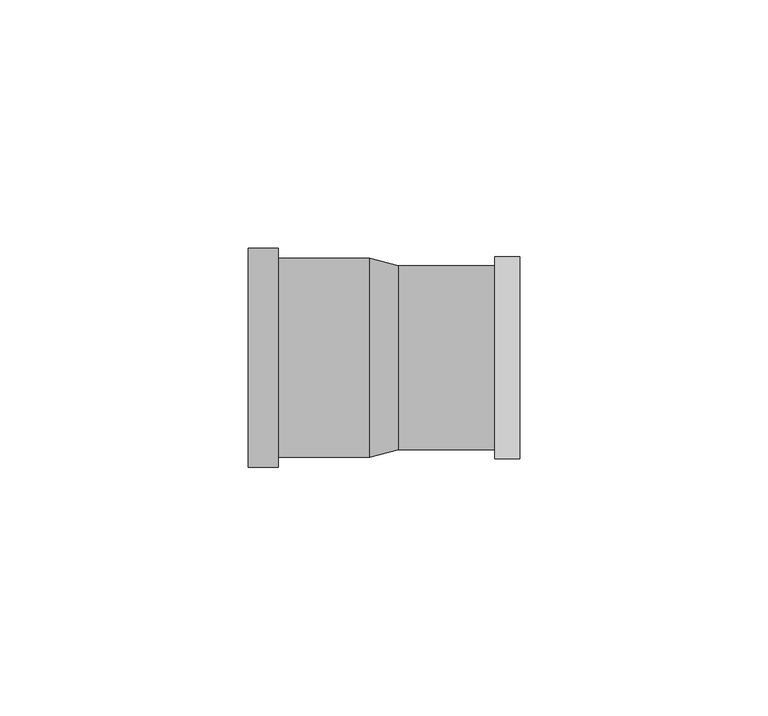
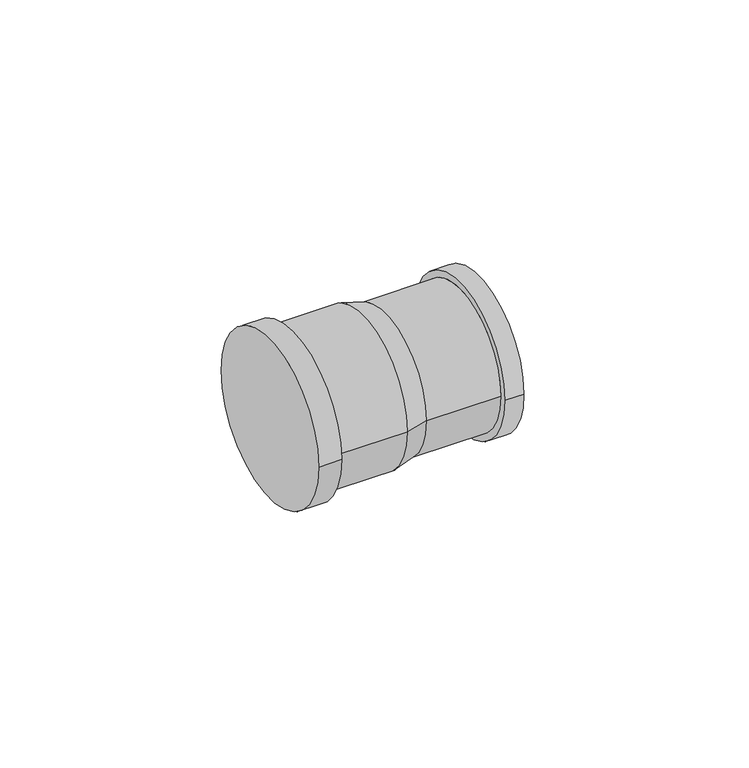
"""IFC4 building model written with IfcOpenShell, lengths in millimetres: pipe fitting geometry, Redutor de acoplamento - PVC - CW : Padrão."""

from ifc_helpers import new_model, si_unit, frame, origin, place, context, project, spatial, polyline, circle_curve, source, transform, mapped, element, save
from ifc_brep_helpers import plane_surface, cylinder_surface, revolved_surface, advanced_brep


def pipe_fitting_d7de274c(model_context):
    return source(origin(), model_context, "Body", "AdvancedBrep", [
        advanced_brep(
        [(24.433, 20.02, 0.0), (30.166, 18.5, 0.0), (30.166, -18.5, 0.0), (24.433, -20.02, 0.0), (0.0, -22.022, 0.0), (0.0, 22.022, 0.0), (5.999, -20.02, 0.0), (5.999, 20.02, 0.0), (5.999, -22.022, 0.0), (5.999, 22.022, 0.0), (54.566, 20.35, 0.0), (54.566, -20.35, 0.0), (49.566, -18.5, 0.0), (49.566, 18.5, 0.0), (49.566, 20.35, 0.0), (49.566, -20.35, 0.0)],
        [
            (0, 1),
            (1, 2, circle_curve(frame((30.166, 0.0, 0.0), z_axis=(-1.0, 0.0, 0.0), x_axis=(0.0, -1.0, 0.0)), 18.5)),
            (2, 3),
            (3, 0, circle_curve(frame((24.433, 0.0, 0.0), z_axis=(1.0, 0.0, 0.0), x_axis=(0.0, -1.0, 0.0)), 20.02)),
            (0, 3, circle_curve(frame((24.433, 0.0, 0.0), z_axis=(1.0, 0.0, 0.0), x_axis=(0.0, 1.0, 0.0)), 20.02)),
            (2, 1, circle_curve(frame((30.166, 0.0, 0.0), z_axis=(-1.0, 0.0, 0.0), x_axis=(0.0, 1.0, 0.0)), 18.5)),
            (4, 5, circle_curve(frame((0.0, 0.0, 0.0), z_axis=(-1.0, 0.0, 0.0), x_axis=(0.0, 1.0, 0.0)), 22.022)),
            (5, 4, circle_curve(frame((0.0, 0.0, 0.0), z_axis=(-1.0, 0.0, 0.0), x_axis=(0.0, 1.0, 0.0)), 22.022)),
            (6, 3),
            (0, 7),
            (7, 6, circle_curve(frame((5.999, 0.0, 0.0), z_axis=(1.0, 0.0, 0.0), x_axis=(0.0, 1.0, 0.0)), 20.02)),
            (6, 7, circle_curve(frame((5.999, 0.0, 0.0), z_axis=(1.0, 0.0, 0.0), x_axis=(0.0, 1.0, 0.0)), 20.02)),
            (8, 9, circle_curve(frame((5.999, 0.0, 0.0), z_axis=(1.0, 0.0, 0.0), x_axis=(0.0, 1.0, 0.0)), 22.022)),
            (9, 8, circle_curve(frame((5.999, 0.0, 0.0), z_axis=(1.0, 0.0, 0.0), x_axis=(0.0, 1.0, 0.0)), 22.022)),
            (4, 8),
            (9, 5),
            (10, 11, circle_curve(frame((54.566, 0.0, 0.0), z_axis=(1.0, 0.0, 0.0), x_axis=(0.0, -1.0, 0.0)), 20.35)),
            (11, 10, circle_curve(frame((54.566, 0.0, 0.0), z_axis=(1.0, 0.0, 0.0), x_axis=(0.0, -1.0, 0.0)), 20.35)),
            (2, 12),
            (12, 13, circle_curve(frame((49.566, 0.0, 0.0), z_axis=(-1.0, 0.0, 0.0), x_axis=(0.0, 1.0, 0.0)), 18.5)),
            (13, 1),
            (13, 12, circle_curve(frame((49.566, 0.0, 0.0), z_axis=(-1.0, 0.0, 0.0), x_axis=(0.0, 1.0, 0.0)), 18.5)),
            (14, 15, circle_curve(frame((49.566, 0.0, 0.0), z_axis=(-1.0, 0.0, 0.0), x_axis=(0.0, -1.0, 0.0)), 20.35)),
            (15, 14, circle_curve(frame((49.566, 0.0, 0.0), z_axis=(-1.0, 0.0, 0.0), x_axis=(0.0, -1.0, 0.0)), 20.35)),
            (10, 14),
            (15, 11),
        ],
        [
            revolved_surface(polyline([(30.165999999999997, 18.499999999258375, 0.0), (24.433000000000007, 20.02, 0.0)]), (99.9426447, 0.0, 0.0), (-1.0, 0.0, 0.0)),
            plane_surface(frame((0.0, 0.0, 0.0), z_axis=(-1.0, 0.0, 0.0), x_axis=(0.0, 0.0, 1.0))),
            cylinder_surface(frame((0.0, 0.0, 0.0), z_axis=(-1.0, 0.0, 0.0), x_axis=(0.0, 1.0, 0.0)), 20.02),
            plane_surface(frame((5.999, 0.0, 0.0), z_axis=(1.0, 0.0, 0.0), x_axis=(0.0, 0.0, 1.0))),
            cylinder_surface(frame((0.0, 0.0, 0.0), z_axis=(-1.0, 0.0, 0.0), x_axis=(0.0, 1.0, 0.0)), 22.022),
            plane_surface(frame((54.566, 0.0, 0.0), z_axis=(1.0, 0.0, 0.0), x_axis=(0.0, 0.0, 1.0))),
            cylinder_surface(frame((30.166, 0.0, 0.0), z_axis=(-1.0, 0.0, 0.0), x_axis=(0.0, 1.0, 0.0)), 18.5),
            plane_surface(frame((49.566, 0.0, 0.0), z_axis=(-1.0, 0.0, 0.0), x_axis=(0.0, 0.0, 1.0))),
            cylinder_surface(frame((54.566, 0.0, 0.0), z_axis=(1.0, 0.0, 0.0), x_axis=(0.0, -1.0, 0.0)), 20.35),
        ],
        [
            (0, [[1, 2, 3, 4]]),
            (0, [[-1, 5, -3, 6]]),
            (1, [[7, 8]]),
            (2, [[9, -5, 10, 11]]),
            (2, [[-9, 12, -10, -4]]),
            (3, [[13, 14], [-11, -12]]),
            (4, [[-7, 15, -14, 16]]),
            (4, [[-8, -16, -13, -15]]),
            (5, [[17, 18]]),
            (6, [[19, 20, 21, -6]]),
            (6, [[-19, -2, -21, 22]]),
            (7, [[23, 24], [-20, -22]]),
            (8, [[-17, 25, -24, 26]]),
            (8, [[-18, -26, -23, -25]]),
        ],
    ),
    ])


if __name__ == "__main__":
    model = new_model("IFC4")
    model_context = context("Model", 3, world=origin())
    ifc_project = project(units=[si_unit("LENGTHUNIT", "METRE", prefix="MILLI")], contexts=[model_context])
    site = spatial("IfcSite", under=ifc_project)
    building = spatial("IfcBuilding", under=site)
    placement = place(None, origin())
    pipe_fitting_shape = pipe_fitting_d7de274c(model_context)
    element("IfcPipeFitting", 1, ObjectType="Redutor de acoplamento - PVC - CW : Padrão", at=placement, inside=building, context=model_context, shape_type="MappedRepresentation", body=[
        mapped(pipe_fitting_shape, transform((0.0, 0.0, 0.0), x_axis=(1.0, 0.0, 0.0), y_axis=(0.0, 1.0, 0.0), z_axis=(0.0, 0.0, 1.0))),
    ])
    save(model, "model.ifc")
